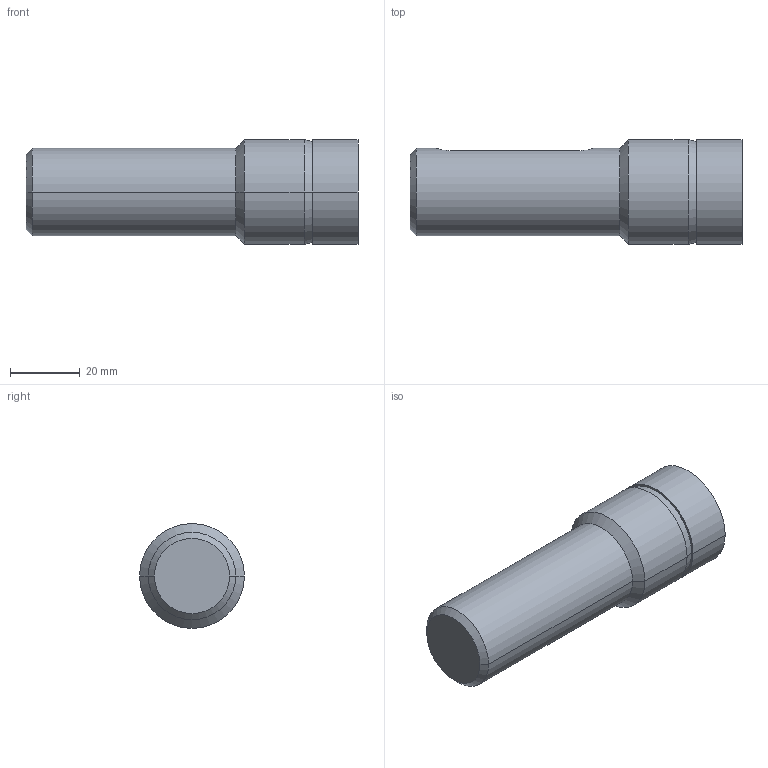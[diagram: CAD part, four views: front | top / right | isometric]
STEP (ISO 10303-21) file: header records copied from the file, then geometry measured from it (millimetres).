
FILE_DESCRIPTION (( 'STEP AP203' ), '1' );
FILE_NAME ('S1-30.STEP', '2002-08-16T10:47:48', ( '.' ), ( '.' ), 'SwSTEP 2.0', 'SolidWorks 2001340', '' );
FILE_SCHEMA (( 'CONFIG_CONTROL_DESIGN' ));
Length unit declared in the file: millimetre
Products named in the file (1): S1-30
Bounding box: 95 x 30 x 30 mm (x, y, z)
Volume: 52415.2 mm3; surface area: 9590.1 mm2
Topology: 1 solids, 1 shells, 20 faces, 43 edges, 26 vertices
Faces by surface type: cylinder 8, plane 6, cone 6
Entity records: 678 total; most frequent: CARTESIAN_POINT 158, DIRECTION 99, ORIENTED_EDGE 86, EDGE_CURVE 43, AXIS2_PLACEMENT_3D 39, VERTEX_POINT 26, LINE 21, VECTOR 21
